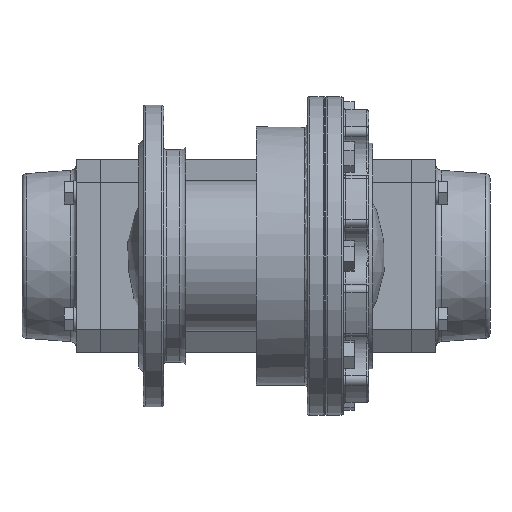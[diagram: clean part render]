
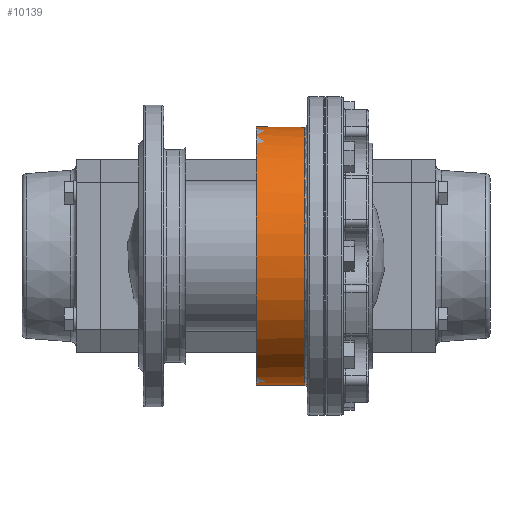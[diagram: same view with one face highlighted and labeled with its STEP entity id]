
A CAD part, front view. The second image highlights one B-rep face of the part: STEP entity #10139.
In plain terms, the highlighted cylindrical face has radius 107 mm (diameter 214 mm), a full revolution.
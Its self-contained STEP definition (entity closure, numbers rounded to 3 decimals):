
#471 = CARTESIAN_POINT ( 'NONE',  ( 2.092, 102.388, 31.077 ) ) ;
#1070 = DIRECTION ( 'NONE',  ( 0., 1., 0. ) ) ;
#1244 = EDGE_LOOP ( 'NONE', ( #12683, #12288 ) ) ;
#1261 = CARTESIAN_POINT ( 'NONE',  ( 14.069, 103.266, -28.03 ) ) ;
#1491 = CARTESIAN_POINT ( 'NONE',  ( 19.328, 104.084, -24.813 ) ) ;
#1589 = CARTESIAN_POINT ( 'NONE',  ( 30.253, 106.518, -10.198 ) ) ;
#1647 = EDGE_LOOP ( 'NONE', ( #17421 ) ) ;
#1689 = CIRCLE ( 'NONE', #10573, 107. ) ;
#1699 = CARTESIAN_POINT ( 'NONE',  ( 25.277, 105.282, 19.116 ) ) ;
#1715 = AXIS2_PLACEMENT_3D ( 'NONE', #11638, #21395, #1070 ) ;
#2554 = VERTEX_POINT ( 'NONE', #19759 ) ;
#3029 = CARTESIAN_POINT ( 'NONE',  ( 27.866, 105.9, -15.312 ) ) ;
#3273 = CARTESIAN_POINT ( 'NONE',  ( 2.096, 102.372, -31.127 ) ) ;
#3365 = CARTESIAN_POINT ( 'NONE',  ( 27.075, 105.704, 16.622 ) ) ;
#3685 = CARTESIAN_POINT ( 'NONE',  ( 4.173, 102.448, 30.878 ) ) ;
#4465 = EDGE_CURVE ( 'NONE', #2554, #2554, #15222, .T. ) ;
#4608 = CARTESIAN_POINT ( 'NONE',  ( 19.388, 104.082, 24.845 ) ) ;
#4715 = CARTESIAN_POINT ( 'NONE',  ( 31.735, 106.925, 4.129 ) ) ;
#4820 = CARTESIAN_POINT ( 'NONE',  ( 27.603, 105.835, -15.755 ) ) ;
#4933 = CARTESIAN_POINT ( 'NONE',  ( 4.157, 102.433, -30.929 ) ) ;
#5149 = CARTESIAN_POINT ( 'NONE',  ( 0., 102.372, 31.127 ) ) ;
#5377 = CARTESIAN_POINT ( 'NONE',  ( 15.905, 103.531, 27.029 ) ) ;
#5958 = EDGE_CURVE ( 'NONE', #8889, #6888, #9847, .T. ) ;
#6256 = DIRECTION ( 'NONE',  ( -1., 0., 0. ) ) ;
#6272 = CARTESIAN_POINT ( 'NONE',  ( 23.938, 104.985, 20.682 ) ) ;
#6318 = CARTESIAN_POINT ( 'NONE',  ( 0., 102.372, -31.127 ) ) ;
#6383 = CARTESIAN_POINT ( 'NONE',  ( 32.001, 107., 1.004 ) ) ;
#6497 = CARTESIAN_POINT ( 'NONE',  ( 15.894, 103.52, -27.092 ) ) ;
#6595 = CARTESIAN_POINT ( 'NONE',  ( 31.786, 106.939, -4.155 ) ) ;
#6713 = CARTESIAN_POINT ( 'NONE',  ( 30.323, 106.534, 10.158 ) ) ;
#6888 = VERTEX_POINT ( 'NONE', #9587 ) ;
#7960 = FACE_OUTER_BOUND ( 'NONE', #1647, .T. ) ;
#8049 = CARTESIAN_POINT ( 'NONE',  ( 21.735, 104.53, -22.868 ) ) ;
#8189 = CYLINDRICAL_SURFACE ( 'NONE', #1715, 107. ) ;
#8270 = CARTESIAN_POINT ( 'NONE',  ( 27.055, 105.701, -16.631 ) ) ;
#8695 = CARTESIAN_POINT ( 'NONE',  ( 8.272, 102.669, 30.137 ) ) ;
#8889 = VERTEX_POINT ( 'NONE', #6318 ) ;
#9587 = CARTESIAN_POINT ( 'NONE',  ( 0., 102.372, 31.127 ) ) ;
#9717 = CARTESIAN_POINT ( 'NONE',  ( 23.95, 104.98, -20.742 ) ) ;
#9824 = CARTESIAN_POINT ( 'NONE',  ( 30.869, 106.685, -8.219 ) ) ;
#9847 = B_SPLINE_CURVE_WITH_KNOTS ( 'NONE', 3,
 ( #16937, #3273, #4933, #16607, #14955, #11736, #21709, #16833, #15161, #1261, #6497, #16732, #18396, #1491, #13291, #15059, #8049, #9717, #21923, #20036, #8270, #4820, #3029, #18515, #11404, #10054, #1589, #14841, #9824, #21807, #21592, #6595, #19939, #6383, #13193, #4715, #13522, #13405, #6713, #20273, #11505, #11845, #18281, #18613, #3365, #21477, #1699, #6272, #13065, #19820, #4608, #10386, #5377, #15281, #15488, #17058, #8695, #19155, #3685, #471, #17378, #5149 ),
 .UNSPECIFIED., .F., .F.,
 ( 4, 2, 2, 2, 2, 2, 2, 2, 2, 2, 2, 2, 2, 2, 2, 2, 2, 2, 2, 2, 2, 2, 2, 2, 2, 2, 2, 2, 2, 2, 4 ),
 ( 0., 0.006, 0.009, 0.011, 0.012, 0.019, 0.02, 0.022, 0.025, 0.031, 0.033, 0.034, 0.037, 0.04, 0.042, 0.043, 0.05, 0.053, 0.056, 0.062, 0.064, 0.065, 0.068, 0.071, 0.074, 0.081, 0.084, 0.087, 0.093, 0.096, 0.099 ),
 .UNSPECIFIED. ) ;
#10054 = CARTESIAN_POINT ( 'NONE',  ( 29.89, 106.42, -11.162 ) ) ;
#10139 = ADVANCED_FACE ( 'NONE', ( #7960, #14530 ), #8189, .T. ) ;
#10386 = CARTESIAN_POINT ( 'NONE',  ( 16.799, 103.665, 26.512 ) ) ;
#10573 = AXIS2_PLACEMENT_3D ( 'NONE', #17536, #19302, #19403 ) ;
#11404 = CARTESIAN_POINT ( 'NONE',  ( 29.073, 106.206, -13.045 ) ) ;
#11505 = CARTESIAN_POINT ( 'NONE',  ( 29.073, 106.206, 13.016 ) ) ;
#11638 = CARTESIAN_POINT ( 'NONE',  ( 0., 0., 0. ) ) ;
#11736 = CARTESIAN_POINT ( 'NONE',  ( 9.7, 102.805, -29.667 ) ) ;
#11845 = CARTESIAN_POINT ( 'NONE',  ( 28.613, 106.088, 13.946 ) ) ;
#12288 = ORIENTED_EDGE ( 'NONE', *, *, #5958, .T. ) ;
#12683 = ORIENTED_EDGE ( 'NONE', *, *, #15411, .T. ) ;
#13065 = CARTESIAN_POINT ( 'NONE',  ( 23.224, 104.833, 21.438 ) ) ;
#13193 = CARTESIAN_POINT ( 'NONE',  ( 31.949, 106.986, 2.045 ) ) ;
#13291 = CARTESIAN_POINT ( 'NONE',  ( 19.744, 104.158, -24.501 ) ) ;
#13405 = CARTESIAN_POINT ( 'NONE',  ( 30.945, 106.705, 8.193 ) ) ;
#13522 = CARTESIAN_POINT ( 'NONE',  ( 31.576, 106.881, 5.156 ) ) ;
#14530 = FACE_OUTER_BOUND ( 'NONE', #1244, .T. ) ;
#14710 = CARTESIAN_POINT ( 'NONE',  ( 40.5, 0., 0. ) ) ;
#14841 = CARTESIAN_POINT ( 'NONE',  ( 30.724, 106.645, -8.718 ) ) ;
#14955 = CARTESIAN_POINT ( 'NONE',  ( 8.204, 102.678, -30.104 ) ) ;
#15059 = CARTESIAN_POINT ( 'NONE',  ( 20.961, 104.38, -23.542 ) ) ;
#15161 = CARTESIAN_POINT ( 'NONE',  ( 11.668, 102.999, -28.989 ) ) ;
#15222 = CIRCLE ( 'NONE', #19822, 107. ) ;
#15281 = CARTESIAN_POINT ( 'NONE',  ( 14.056, 103.278, 27.982 ) ) ;
#15411 = EDGE_CURVE ( 'NONE', #6888, #8889, #1689, .T. ) ;
#15488 = CARTESIAN_POINT ( 'NONE',  ( 13.116, 103.16, 28.41 ) ) ;
#16607 = CARTESIAN_POINT ( 'NONE',  ( 7.199, 102.607, -30.346 ) ) ;
#16719 = DIRECTION ( 'NONE',  ( 0., -1., 0. ) ) ;
#16732 = CARTESIAN_POINT ( 'NONE',  ( 18.059, 103.868, -25.702 ) ) ;
#16833 = CARTESIAN_POINT ( 'NONE',  ( 11.182, 102.947, -29.169 ) ) ;
#16937 = CARTESIAN_POINT ( 'NONE',  ( 0., 102.372, -31.127 ) ) ;
#17058 = CARTESIAN_POINT ( 'NONE',  ( 10.247, 102.84, 29.557 ) ) ;
#17378 = CARTESIAN_POINT ( 'NONE',  ( 1.048, 102.372, 31.127 ) ) ;
#17421 = ORIENTED_EDGE ( 'NONE', *, *, #4465, .T. ) ;
#17536 = CARTESIAN_POINT ( 'NONE',  ( 0., 0., 0. ) ) ;
#18281 = CARTESIAN_POINT ( 'NONE',  ( 28.373, 106.027, 14.403 ) ) ;
#18396 = CARTESIAN_POINT ( 'NONE',  ( 18.486, 103.939, -25.413 ) ) ;
#18515 = CARTESIAN_POINT ( 'NONE',  ( 28.618, 106.089, -13.965 ) ) ;
#18613 = CARTESIAN_POINT ( 'NONE',  ( 27.62, 105.838, 15.753 ) ) ;
#19155 = CARTESIAN_POINT ( 'NONE',  ( 5.212, 102.493, 30.728 ) ) ;
#19302 = DIRECTION ( 'NONE',  ( 1., 0., 0. ) ) ;
#19403 = DIRECTION ( 'NONE',  ( 0., 1., 0. ) ) ;
#19759 = CARTESIAN_POINT ( 'NONE',  ( 40.5, -107., 0. ) ) ;
#19820 = CARTESIAN_POINT ( 'NONE',  ( 20.995, 104.38, 23.579 ) ) ;
#19822 = AXIS2_PLACEMENT_3D ( 'NONE', #14710, #6256, #16719 ) ;
#19939 = CARTESIAN_POINT ( 'NONE',  ( 31.998, 106.999, -2.101 ) ) ;
#20036 = CARTESIAN_POINT ( 'NONE',  ( 26.768, 105.631, -17.065 ) ) ;
#20273 = CARTESIAN_POINT ( 'NONE',  ( 29.292, 106.263, 12.542 ) ) ;
#21395 = DIRECTION ( 'NONE',  ( 1., 0., 0. ) ) ;
#21477 = CARTESIAN_POINT ( 'NONE',  ( 25.904, 105.426, 18.304 ) ) ;
#21592 = CARTESIAN_POINT ( 'NONE',  ( 31.254, 106.791, -6.7 ) ) ;
#21709 = CARTESIAN_POINT ( 'NONE',  ( 10.197, 102.851, -29.509 ) ) ;
#21807 = CARTESIAN_POINT ( 'NONE',  ( 31.134, 106.758, -7.21 ) ) ;
#21923 = CARTESIAN_POINT ( 'NONE',  ( 25.285, 105.28, -19.188 ) ) ;
